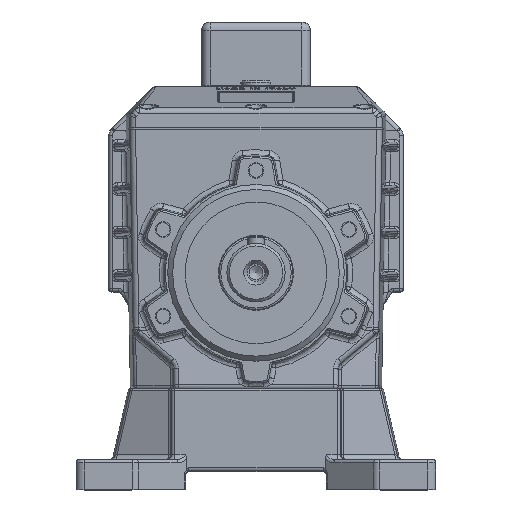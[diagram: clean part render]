
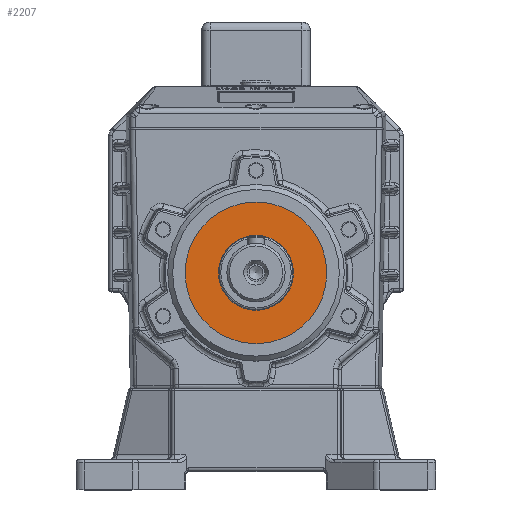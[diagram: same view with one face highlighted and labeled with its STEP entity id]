
A CAD part, top view. The second image highlights one B-rep face of the part: STEP entity #2207.
In plain terms, the highlighted planar face has unit normal (0, 0, 1).
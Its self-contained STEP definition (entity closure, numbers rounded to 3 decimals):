
#2207 = ADVANCED_FACE( '', ( #5825, #5826 ), #5827, .F. );
#5825 = FACE_BOUND( '', #12236, .T. );
#5826 = FACE_OUTER_BOUND( '', #12237, .T. );
#5827 = PLANE( '', #12238 );
#12236 = EDGE_LOOP( '', ( #26509 ) );
#12237 = EDGE_LOOP( '', ( #26510 ) );
#12238 = AXIS2_PLACEMENT_3D( '', #26511, #26512, #26513 );
#26509 = ORIENTED_EDGE( '', *, *, #39163, .T. );
#26510 = ORIENTED_EDGE( '', *, *, #39164, .F. );
#26511 = CARTESIAN_POINT( '', ( 0., 0., 12. ) );
#26512 = DIRECTION( '', ( 0., 0., -1. ) );
#26513 = DIRECTION( '', ( 1., 0., 0. ) );
#39163 = EDGE_CURVE( '', #45529, #45529, #45530, .T. );
#39164 = EDGE_CURVE( '', #45531, #45531, #45532, .T. );
#45529 = VERTEX_POINT( '', #55933 );
#45530 = CIRCLE( '', #55934, 22.5 );
#45531 = VERTEX_POINT( '', #55935 );
#45532 = CIRCLE( '', #55936, 42.5 );
#55933 = CARTESIAN_POINT( '', ( 0., 22.5, 12. ) );
#55934 = AXIS2_PLACEMENT_3D( '', #69312, #69313, #69314 );
#55935 = CARTESIAN_POINT( '', ( 0., 42.5, 12. ) );
#55936 = AXIS2_PLACEMENT_3D( '', #69315, #69316, #69317 );
#69312 = CARTESIAN_POINT( '', ( 0., 0., 12. ) );
#69313 = DIRECTION( '', ( 0., 0., -1. ) );
#69314 = DIRECTION( '', ( 0., 1., 0. ) );
#69315 = CARTESIAN_POINT( '', ( 0., 0., 12. ) );
#69316 = DIRECTION( '', ( 0., 0., -1. ) );
#69317 = DIRECTION( '', ( 0., 1., 0. ) );
